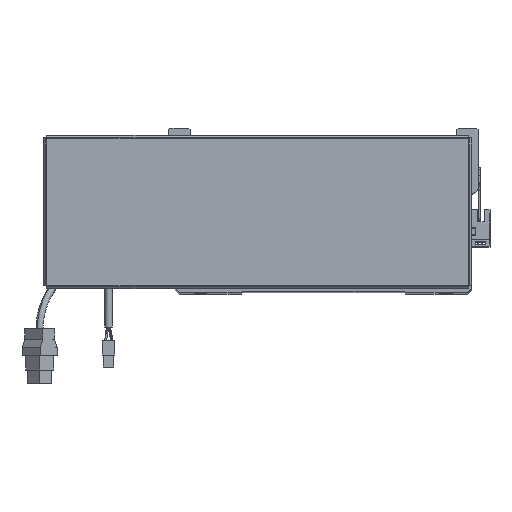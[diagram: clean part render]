
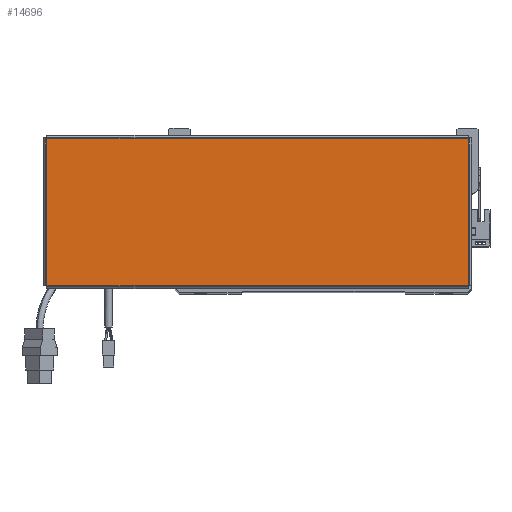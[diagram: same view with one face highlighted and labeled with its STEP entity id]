
A CAD part, top view. The second image highlights one B-rep face of the part: STEP entity #14696.
In plain terms, the highlighted planar face has unit normal (0, 0, 1).
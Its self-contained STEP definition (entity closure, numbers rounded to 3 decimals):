
#1218 = DIRECTION ( 'NONE',  ( -1., 0., 0. ) ) ;
#2446 = DIRECTION ( 'NONE',  ( 0., 0., 1. ) ) ;
#7239 = EDGE_CURVE ( 'NONE', #66161, #37300, #57032, .T. ) ;
#9344 = CARTESIAN_POINT ( 'NONE',  ( 156.513, 54.763, 0. ) ) ;
#10984 = DIRECTION ( 'NONE',  ( 0., 1., 0. ) ) ;
#13177 = LINE ( 'NONE', #30027, #20382 ) ;
#14696 = ADVANCED_FACE ( 'NONE', ( #56201 ), #42983, .T. ) ;
#18917 = EDGE_CURVE ( 'NONE', #37300, #33323, #53088, .T. ) ;
#20382 = VECTOR ( 'NONE', #34788, 1000. ) ;
#20797 = DIRECTION ( 'NONE',  ( 0., -1., 0. ) ) ;
#25169 = EDGE_CURVE ( 'NONE', #60500, #66161, #27039, .T. ) ;
#25661 = AXIS2_PLACEMENT_3D ( 'NONE', #37373, #2446, #59545 ) ;
#26705 = CARTESIAN_POINT ( 'NONE',  ( 156.543, 54.763, 0. ) ) ;
#26768 = CARTESIAN_POINT ( 'NONE',  ( -156.513, 54.763, 0. ) ) ;
#27039 = LINE ( 'NONE', #36530, #38275 ) ;
#27627 = CARTESIAN_POINT ( 'NONE',  ( -156.513, -54.763, 0. ) ) ;
#30027 = CARTESIAN_POINT ( 'NONE',  ( -156.543, -54.763, 0. ) ) ;
#33323 = VERTEX_POINT ( 'NONE', #27627 ) ;
#33566 = EDGE_CURVE ( 'NONE', #33323, #60500, #13177, .T. ) ;
#34788 = DIRECTION ( 'NONE',  ( 1., 0., 0. ) ) ;
#36198 = VECTOR ( 'NONE', #1218, 1000. ) ;
#36530 = CARTESIAN_POINT ( 'NONE',  ( 156.513, -54.793, 0. ) ) ;
#37300 = VERTEX_POINT ( 'NONE', #26768 ) ;
#37373 = CARTESIAN_POINT ( 'NONE',  ( 0., 0., 0. ) ) ;
#38275 = VECTOR ( 'NONE', #10984, 1000. ) ;
#40152 = ORIENTED_EDGE ( 'NONE', *, *, #18917, .T. ) ;
#40313 = VECTOR ( 'NONE', #20797, 1000. ) ;
#42983 = PLANE ( 'NONE',  #25661 ) ;
#45560 = CARTESIAN_POINT ( 'NONE',  ( 156.513, -54.763, 0. ) ) ;
#49176 = ORIENTED_EDGE ( 'NONE', *, *, #33566, .T. ) ;
#51501 = CARTESIAN_POINT ( 'NONE',  ( -156.513, 54.793, 0. ) ) ;
#53088 = LINE ( 'NONE', #51501, #40313 ) ;
#56201 = FACE_OUTER_BOUND ( 'NONE', #61624, .T. ) ;
#56640 = ORIENTED_EDGE ( 'NONE', *, *, #25169, .T. ) ;
#57032 = LINE ( 'NONE', #26705, #36198 ) ;
#59545 = DIRECTION ( 'NONE',  ( 1., 0., 0. ) ) ;
#60500 = VERTEX_POINT ( 'NONE', #45560 ) ;
#61624 = EDGE_LOOP ( 'NONE', ( #49176, #56640, #61727, #40152 ) ) ;
#61727 = ORIENTED_EDGE ( 'NONE', *, *, #7239, .T. ) ;
#66161 = VERTEX_POINT ( 'NONE', #9344 ) ;
